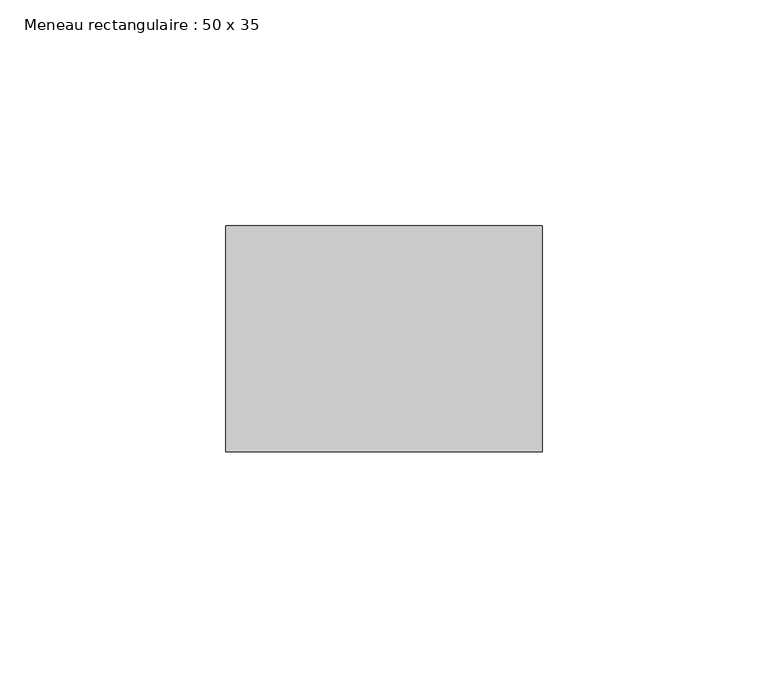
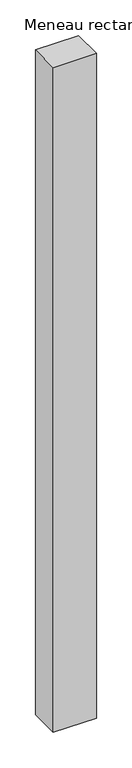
"""IFC4 building model written with IfcOpenShell, lengths in millimetres: member geometry, Meneau rectangulaire : 50 x 35."""

from ifc_helpers import new_model, si_unit, frame, origin, place, context, project, spatial, polyline, outline, extrude, source, transform, mapped, element, save


def meneau_rectangulaire_50_x_35_a7afcd57(model_context):
    return source(origin(), model_context, "Body", "SweptSolid", [
        extrude(outline(polyline([(35.0, 0.0), (35.0, -50.0), (-35.0, -50.0), (-35.0, 0.0), (35.0, 0.0)])), frame((0.0, 0.0, -1137.5), z_axis=(0.0, 0.0, 1.0), x_axis=(1.0, 0.0, 0.0)), (0.0, 0.0, 1.0), 1137.5),
    ])


if __name__ == "__main__":
    model = new_model("IFC4")
    model_context = context("Model", 3, world=origin())
    ifc_project = project(units=[si_unit("LENGTHUNIT", "METRE", prefix="MILLI")], contexts=[model_context])
    site = spatial("IfcSite", under=ifc_project)
    building = spatial("IfcBuilding", under=site)
    placement = place(None, origin())
    meneau_rectangulaire_50_x_35_shape = meneau_rectangulaire_50_x_35_a7afcd57(model_context)
    element("IfcMember", 1, ObjectType="Meneau rectangulaire : 50 x 35", at=placement, inside=building, context=model_context, shape_type="MappedRepresentation", body=[
        mapped(meneau_rectangulaire_50_x_35_shape, transform((0.0, 0.0, 0.0), x_axis=(1.0, 0.0, 0.0), y_axis=(0.0, 1.0, 0.0), z_axis=(0.0, 0.0, 1.0))),
    ])
    save(model, "model.ifc")
